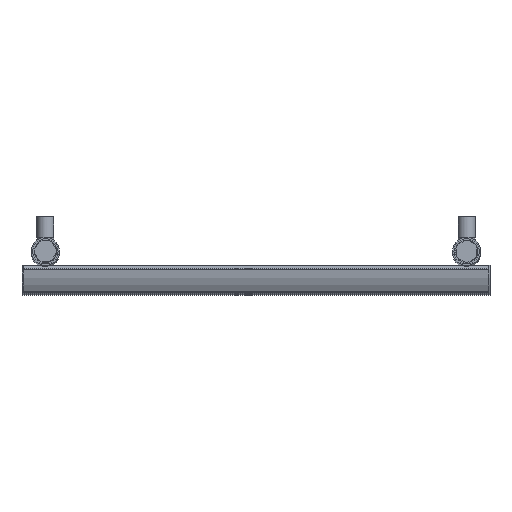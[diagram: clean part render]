
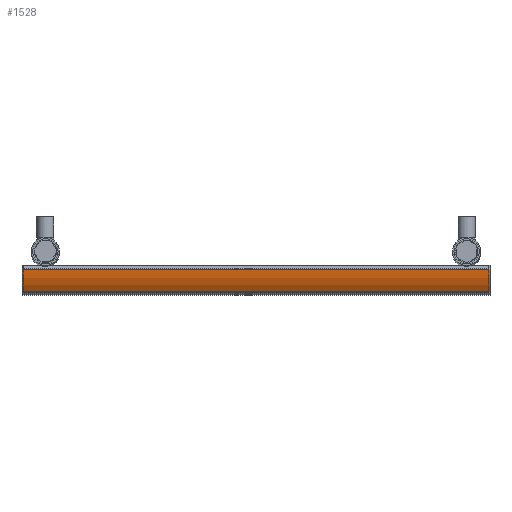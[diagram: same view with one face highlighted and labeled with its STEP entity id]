
A CAD part, top view. The second image highlights one B-rep face of the part: STEP entity #1528.
In plain terms, the highlighted cylindrical face has radius 51.638 mm (diameter 103.277 mm), a partial arc.
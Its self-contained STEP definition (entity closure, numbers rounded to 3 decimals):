
#171=LINE('',#4496,#205);
#172=LINE('',#4499,#206);
#205=VECTOR('',#1893,10.);
#206=VECTOR('',#1896,10.);
#519=FACE_OUTER_BOUND('',#690,.T.);
#690=EDGE_LOOP('',(#1313,#1314,#1315,#1316));
#740=CIRCLE('',#1661,51.638);
#741=CIRCLE('',#1662,51.638);
#878=VERTEX_POINT('',#4492);
#879=VERTEX_POINT('',#4493);
#880=VERTEX_POINT('',#4495);
#881=VERTEX_POINT('',#4497);
#1032=EDGE_CURVE('',#878,#879,#740,.T.);
#1033=EDGE_CURVE('',#878,#880,#171,.T.);
#1034=EDGE_CURVE('',#881,#880,#741,.T.);
#1035=EDGE_CURVE('',#879,#881,#172,.T.);
#1313=ORIENTED_EDGE('',*,*,#1032,.F.);
#1314=ORIENTED_EDGE('',*,*,#1033,.T.);
#1315=ORIENTED_EDGE('',*,*,#1034,.F.);
#1316=ORIENTED_EDGE('',*,*,#1035,.F.);
#1474=CYLINDRICAL_SURFACE('',#1660,51.638);
#1528=ADVANCED_FACE('',(#519),#1474,.T.);
#1660=AXIS2_PLACEMENT_3D('',#4491,#1889,#1890);
#1661=AXIS2_PLACEMENT_3D('',#4494,#1891,#1892);
#1662=AXIS2_PLACEMENT_3D('',#4498,#1894,#1895);
#1889=DIRECTION('center_axis',(0.,0.,-1.));
#1890=DIRECTION('ref_axis',(0.837,-0.547,0.));
#1891=DIRECTION('center_axis',(0.,0.,1.));
#1892=DIRECTION('ref_axis',(0.837,-0.547,0.));
#1893=DIRECTION('',(0.,0.,-1.));
#1894=DIRECTION('center_axis',(0.,0.,-1.));
#1895=DIRECTION('ref_axis',(0.837,-0.547,0.));
#1896=DIRECTION('',(0.,0.,-1.));
#4491=CARTESIAN_POINT('Origin',(-41.424,-0.617,0.));
#4492=CARTESIAN_POINT('',(1.804,-28.863,0.));
#4493=CARTESIAN_POINT('',(10.063,-4.573,0.));
#4494=CARTESIAN_POINT('Origin',(-41.424,-0.617,0.));
#4495=CARTESIAN_POINT('',(1.804,-28.863,-500.));
#4496=CARTESIAN_POINT('',(1.804,-28.863,0.));
#4497=CARTESIAN_POINT('',(10.063,-4.573,-500.));
#4498=CARTESIAN_POINT('Origin',(-41.424,-0.617,-500.));
#4499=CARTESIAN_POINT('',(10.063,-4.573,0.));
